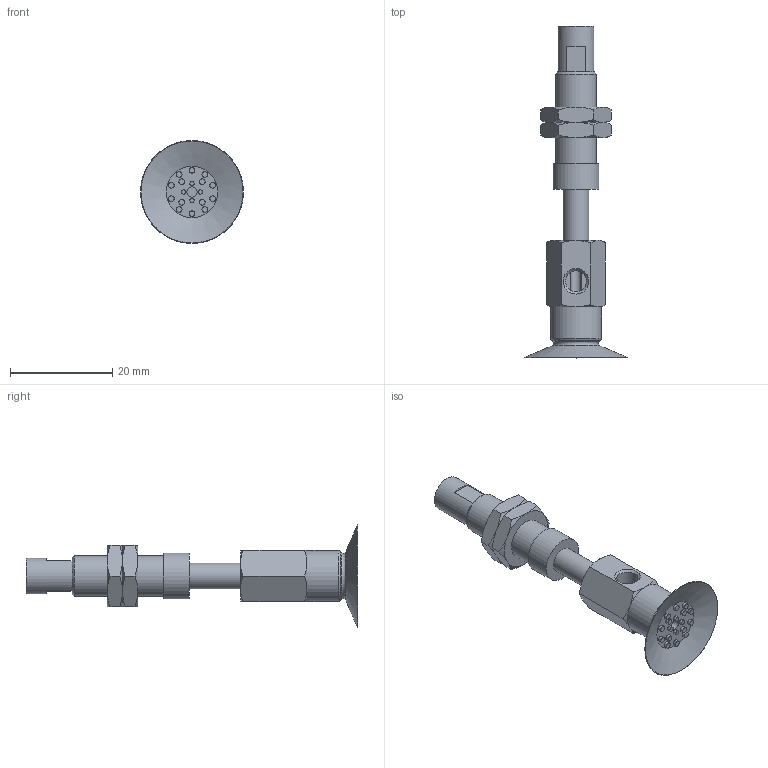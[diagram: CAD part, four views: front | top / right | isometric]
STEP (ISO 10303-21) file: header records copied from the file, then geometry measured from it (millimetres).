
FILE_DESCRIPTION(('STEP AP203'),'1');
FILE_NAME('.stp','2025-02-18T01:09:56',(' '),(' '),'Spatial InterOp 3D',' ',' ');
FILE_SCHEMA(('CONFIG_CONTROL_DESIGN'));
Length unit declared in the file: millimetre
Products named in the file (6): BNABPAYS-20A-10-※; NAPAYS-20A-10--M; NAPAYS-20A-10--F; Nut-10A-S; CONNECTOR-20A-10-PA; BPAG-20A-※_3D
Assembly tree (6 placements, depth 2):
  BNABPAYS-20A-10-※
    NAPAYS-20A-10--M
    NAPAYS-20A-10--F
    Nut-10A-S  x2
    CONNECTOR-20A-10-PA
    BPAG-20A-※_3D
Bounding box: 20.19 x 65 x 20.19 mm (x, y, z)
Volume: 3822.6 mm3; surface area: 4785.8 mm2
Topology: 6 solids, 6 shells, 165 faces, 326 edges, 200 vertices
Faces by surface type: plane 69, cone 51, cylinder 35, torus 10
Full cylindrical faces by diameter (mm): 0.9 x4, 1.1 x14, 2 x2, 4 x2, 4.134 x2, 5 x3, 6 x2, 7 x1, 7.188 x2, 8 x1, 9 x1, 10 x1
Entity records: 3828 total; most frequent: CARTESIAN_POINT 873, DIRECTION 576, ORIENTED_EDGE 426, AXIS2_PLACEMENT_3D 268, EDGE_LOOP 234, EDGE_CURVE 213, FACE_OUTER_BOUND 186, VERTEX_POINT 163
